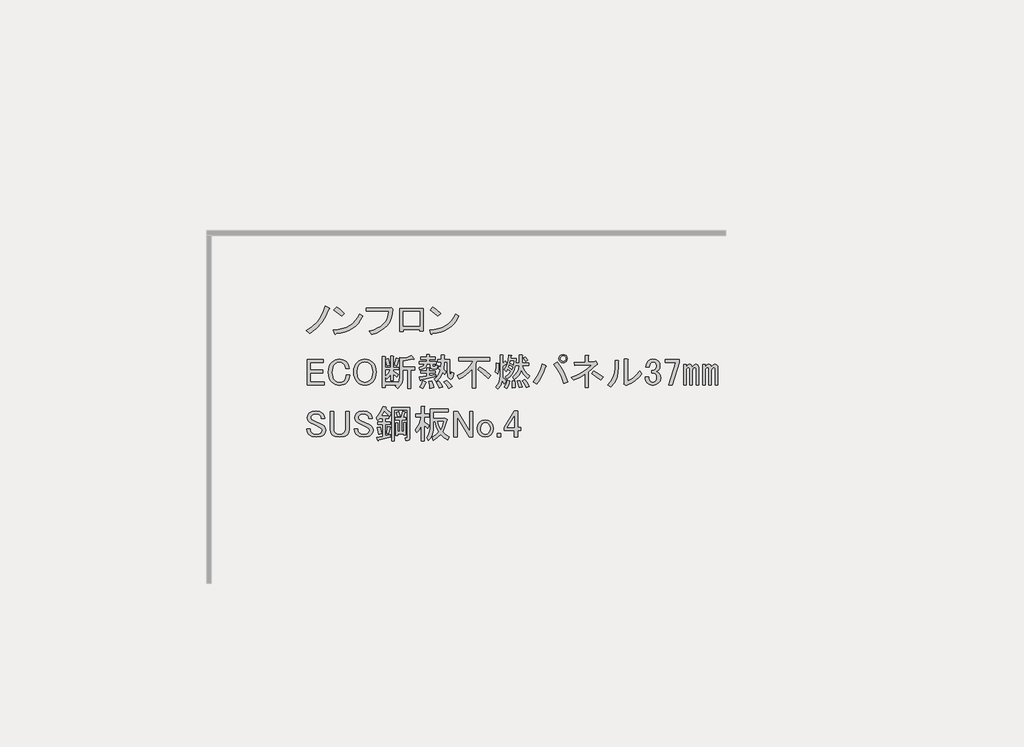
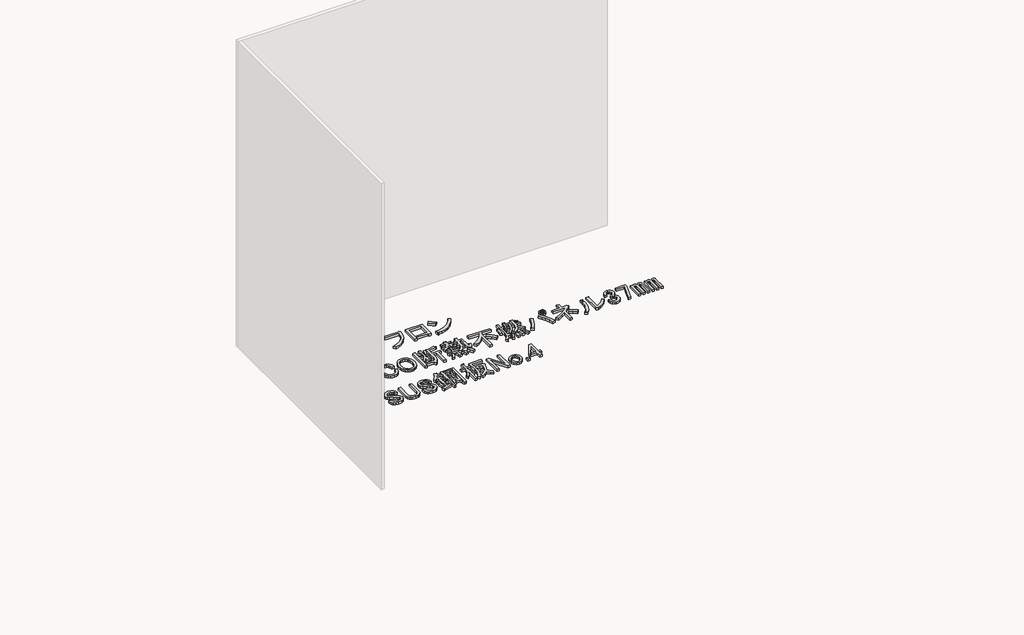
# One storey, part 110 of 117: 1 proxy.
"""IFC4 building model written with IfcOpenShell, lengths in millimetres."""

from ifc_helpers import new_model, si_unit, frame, origin, place, context, project, spatial, polyline, outline, extrude, element, save

model = new_model("IFC4")

# Units and contexts
model_context = context("Model", 3, world=origin())
ifc_project = project(units=[si_unit("LENGTHUNIT", "METRE", prefix="MILLI")], contexts=[model_context])

# Site, building, storey
site = spatial("IfcSite", under=ifc_project)
building = spatial("IfcBuilding", under=site)
storey = spatial("IfcBuildingStorey", under=building, Name="レベル 1", Elevation=500.0)

# Proxy
placement = place(None, origin())
element("IfcBuildingElementProxy", 1, Name="200㎜\u3000MS Pゴシック", ObjectType="200㎜\u3000MS Pゴシック", at=placement, inside=storey, context=model_context, shape_type="SweptSolid", body=[
    extrude(outline(polyline([(48940.1706985, 11396.4503118), (48914.5952502, 11336.6784775), (48886.146156, 11290.7001434), (48844.4782907, 11245.2965385), (48795.3389462, 11207.939142), (48767.7519457, 11229.7788507), (48815.4544673, 11260.2394971), (48855.1107805, 11298.7463519), (48872.4963381, 11322.6694538), (48887.8703435, 11350.7593423), (48901.2327969, 11383.0160173), (48912.5836981, 11419.4394788), (48943.6190736, 11405.6459786), (48946.7800841, 11401.0481452), (48940.1706985, 11396.4503118)])), frame((0.0, 0.0, 500.0), z_axis=(0.0, 0.0, 1.0), x_axis=(1.0, 0.0, 0.0)), (0.0, 0.0, 1.0), 25.0),
    extrude(outline(polyline([(49039.8977052, 11341.2763109), (48981.2753292, 11388.4041033), (49000.8161212, 11412.5427287), (49028.1157571, 11392.7145721), (49061.7374138, 11363.1160196), (49039.8977052, 11341.2763109)])), frame((0.0, 0.0, 500.0), z_axis=(0.0, 0.0, 1.0), x_axis=(1.0, 0.0, 0.0)), (0.0, 0.0, 1.0), 25.0),
    extrude(outline(polyline([(49201.9713328, 11341.2763109), (49185.447869, 11311.534076), (49166.3381239, 11285.5275808), (49144.6420975, 11263.2568252), (49120.3597898, 11244.7218093), (49093.4912008, 11229.922533), (49064.0363306, 11218.8589964), (49031.995179, 11211.5311994), (48997.3677461, 11207.939142), (48991.6204544, 11199.8929336), (48985.8731626, 11205.6402253), (48976.6774958, 11235.5261425), (49012.5082679, 11238.2022252), (49045.2857912, 11244.5062859), (49075.0100658, 11254.4383244), (49101.6810916, 11267.9983409), (49125.2988687, 11285.1863354), (49145.863397, 11306.0023077), (49163.3746766, 11330.446258), (49177.8327074, 11358.5181862), (49201.9713328, 11341.2763109)])), frame((0.0, 0.0, 500.0), z_axis=(0.0, 0.0, 1.0), x_axis=(1.0, 0.0, 0.0)), (0.0, 0.0, 1.0), 25.0),
    extrude(outline(polyline([(49252.7314136, 11226.3304757), (49286.514713, 11236.0110702), (49316.0234641, 11248.3857078), (49341.257667, 11263.4543884), (49362.2173217, 11281.217112), (49378.902428, 11301.6738786), (49391.3129862, 11324.8246882), (49399.4489961, 11350.6695409), (49403.3104577, 11379.2084365), (49230.8917049, 11379.2084365), (49230.8917049, 11404.4965202), (49405.6093744, 11404.4965202), (49421.7017914, 11407.9448953), (49434.3458332, 11396.4503118), (49430.825617, 11359.9550091), (49422.5638851, 11326.9080815), (49409.5606375, 11297.3095289), (49391.8158742, 11271.1593514), (49369.3295952, 11248.457549), (49342.1018005, 11229.2041216), (49310.1324901, 11213.3990692), (49273.421664, 11201.0423919), (49252.7314136, 11226.3304757)])), frame((0.0, 0.0, 500.0), z_axis=(0.0, 0.0, 1.0), x_axis=(1.0, 0.0, 0.0)), (0.0, 0.0, 1.0), 25.0),
    extrude(outline(polyline([(49667.455987, 11227.479934), (49641.0184449, 11227.479934), (49641.0184449, 11240.1239759), (49513.4285679, 11240.1239759), (49513.4285679, 11221.7326423), (49486.9910258, 11221.7326423), (49486.9910258, 11401.0481452), (49667.455987, 11401.0481452), (49667.455987, 11227.479934)]), holes=[polyline([(49513.4285679, 11375.7600614), (49513.4285679, 11265.4120596), (49641.0184449, 11265.4120596), (49641.0184449, 11375.7600614), (49513.4285679, 11375.7600614)])]), frame((0.0, 0.0, 500.0), z_axis=(0.0, 0.0, 1.0), x_axis=(1.0, 0.0, 0.0)), (0.0, 0.0, 1.0), 25.0),
    extrude(outline(polyline([(49943.5099049, 11341.2763109), (49926.9864411, 11311.534076), (49907.876696, 11285.5275808), (49886.1806696, 11263.2568252), (49861.8983619, 11244.7218093), (49835.0297729, 11229.922533), (49805.5749026, 11218.8589964), (49773.5337511, 11211.5311994), (49738.9063182, 11207.939142), (49733.1590264, 11199.8929336), (49727.4117347, 11205.6402253), (49718.2160679, 11235.5261425), (49754.0468399, 11238.2022252), (49786.8243633, 11244.5062859), (49816.5486378, 11254.4383244), (49843.2196637, 11267.9983409), (49866.8374407, 11285.1863354), (49887.4019691, 11306.0023077), (49904.9132486, 11330.446258), (49919.3712795, 11358.5181862), (49943.5099049, 11341.2763109)])), frame((0.0, 0.0, 500.0), z_axis=(0.0, 0.0, 1.0), x_axis=(1.0, 0.0, 0.0)), (0.0, 0.0, 1.0), 25.0),
    extrude(outline(polyline([(49781.4362772, 11341.2763109), (49722.8139013, 11388.4041033), (49742.3546933, 11412.5427287), (49769.6543291, 11392.7145721), (49803.2759859, 11363.1160196), (49781.4362772, 11341.2763109)])), frame((0.0, 0.0, 500.0), z_axis=(0.0, 0.0, 1.0), x_axis=(1.0, 0.0, 0.0)), (0.0, 0.0, 1.0), 25.0),
    extrude(outline(polyline([(48773.4992375, 11007.9448953), (48899.9396562, 11007.9448953), (48899.9396562, 10986.1051866), (48799.9367796, 10986.1051866), (48799.9367796, 10925.183894), (48893.0429061, 10925.183894), (48893.0429061, 10903.3441853), (48799.9367796, 10903.3441853), (48799.9367796, 10833.2272258), (48905.686948, 10833.2272258), (48905.686948, 10811.3875171), (48773.4992375, 10811.3875171), (48773.4992375, 11007.9448953)])), frame((0.0, 0.0, 500.0), z_axis=(0.0, 0.0, 1.0), x_axis=(1.0, 0.0, 0.0)), (0.0, 0.0, 1.0), 25.0),
    extrude(outline(polyline([(48937.7798252, 10909.091477), (48939.5758538, 10933.014579), (48944.9639399, 10954.2077173), (48953.9440832, 10972.6708921), (48966.516284, 10988.4041033), (48991.5170031, 11004.7838848), (49022.8397432, 11010.243812), (49053.5877541, 11005.358614), (49076.8642858, 10990.70302), (49092.6693381, 10967.1391238), (49098.7039944, 10937.8279358), (49071.116994, 10937.8279358), (49066.231796, 10959.0929153), (49056.1740354, 10974.6106031), (49040.9437123, 10984.9557283), (49022.8397432, 10988.4041033), (49003.2989512, 10984.3809991), (48986.0570759, 10972.3116864), (48977.0050914, 10960.6015794), (48970.5393882, 10946.1615089), (48965.3668256, 10909.091477), (48970.5393882, 10872.0214452), (48977.0050914, 10857.5813746), (48986.0570759, 10845.8712677), (49002.7242221, 10834.6640487), (49022.8397432, 10830.9283091), (49043.242629, 10834.0893196), (49058.4729521, 10843.572351), (49070.5422648, 10863.1131429), (49074.5653691, 10889.550685), (49102.1523695, 10889.550685), (49095.8303486, 10854.7795699), (49088.7899162, 10840.6268639), (49079.1632025, 10828.6293924), (49068.3151893, 10820.0802959), (49055.3119417, 10813.9737984), (49022.8397432, 10809.0886004), (48991.5170031, 10814.5485276), (48966.516284, 10830.9283091), (48953.9440832, 10846.5896791), (48944.9639399, 10864.8373305), (48939.5758538, 10885.6712631), (48937.7798252, 10909.091477)])), frame((0.0, 0.0, 500.0), z_axis=(0.0, 0.0, 1.0), x_axis=(1.0, 0.0, 0.0)), (0.0, 0.0, 1.0), 25.0),
    extrude(outline(polyline([(49133.1417667, 10910.2409354), (49134.8659542, 10933.0864201), (49140.0385168, 10953.3456236), (49148.6594544, 10971.0185457), (49160.7287671, 10986.1051866), (49173.4446501, 10996.6658352), (49187.4536738, 11004.2091557), (49202.7558381, 11008.7351479), (49219.3511431, 11010.243812), (49235.946448, 11008.7351479), (49251.2486123, 11004.2091557), (49265.257636, 10996.6658352), (49277.973519, 10986.1051866), (49290.0428317, 10971.0185457), (49298.6637694, 10953.3456236), (49303.836332, 10933.0864201), (49305.5605195, 10910.2409354), (49303.836332, 10887.3954506), (49298.6637694, 10867.1362472), (49290.0428317, 10849.463325), (49277.973519, 10834.3766841), (49265.257636, 10823.8160355), (49251.2486123, 10816.2727151), (49235.946448, 10811.7467228), (49219.3511431, 10810.2380587), (49202.7558381, 10811.7467228), (49187.4536738, 10816.2727151), (49173.4446501, 10823.8160355), (49160.7287671, 10834.3766841), (49148.6594544, 10849.463325), (49140.0385168, 10867.1362472), (49134.8659542, 10887.3954506), (49133.1417667, 10910.2409354)]), holes=[polyline([(49219.3511431, 10988.4041033), (49198.6608927, 10984.0936345), (49180.2695591, 10971.162228), (49171.7204626, 10960.0268502), (49165.6139651, 10946.1615089), (49160.7287671, 10910.2409354), (49165.6139651, 10874.3203619), (49171.7204626, 10860.4550205), (49180.2695591, 10849.3196427), (49198.6608927, 10836.3882363), (49219.3511431, 10832.0777674), (49240.0413934, 10836.3882363), (49258.432727, 10849.3196427), (49266.9818235, 10860.4550205), (49273.088321, 10874.3203619), (49277.973519, 10910.2409354), (49273.088321, 10946.1615089), (49266.9818235, 10960.0268502), (49258.432727, 10971.162228), (49240.0413934, 10984.0936345), (49219.3511431, 10988.4041033)])]), frame((0.0, 0.0, 500.0), z_axis=(0.0, 0.0, 1.0), x_axis=(1.0, 0.0, 0.0)), (0.0, 0.0, 1.0), 25.0),
    extrude(outline(polyline([(49444.3691101, 10964.2654779), (49461.6109854, 11017.1405621), (49482.3012357, 11011.3932704), (49484.0254232, 11008.2322599), (49480.002319, 11005.6459786), (49462.7604437, 10957.3687278), (49444.3691101, 10964.2654779)])), frame((0.0, 0.0, 500.0), z_axis=(0.0, 0.0, 1.0), x_axis=(1.0, 0.0, 0.0)), (0.0, 0.0, 1.0), 25.0),
    extrude(outline(polyline([(49598.3965292, 11012.5427287), (49596.6723417, 11007.9448953), (49589.2008624, 11010.243812), (49512.1871528, 10997.5997701), (49512.1871528, 10948.173061), (49604.143821, 10948.173061), (49604.143821, 10926.3333523), (49573.1084455, 10926.3333523), (49573.1084455, 10786.0994334), (49550.1192785, 10786.0994334), (49550.1192785, 10926.3333523), (49512.1871528, 10926.3333523), (49512.1871528, 10876.9066432), (49509.6008716, 10849.1041193), (49501.8420277, 10824.3189236), (49488.9106212, 10802.551056), (49470.8066522, 10783.8005167), (49453.5647769, 10803.3413086), (49463.9099021, 10812.5369755), (49374.2521506, 10812.5369755), (49374.2521506, 10790.6972668), (49351.2629836, 10790.6972668), (49351.2629836, 11029.784604), (49373.1026922, 11029.784604), (49377.9878902, 11027.4856873), (49374.2521506, 11022.8878539), (49374.2521506, 10947.0236026), (49416.7821096, 10947.0236026), (49416.7821096, 11034.3824374), (49435.1734433, 11034.3824374), (49440.0586413, 11032.0835207), (49436.3229016, 11027.4856873), (49436.3229016, 10947.0236026), (49480.002319, 10947.0236026), (49480.002319, 10928.632269), (49436.3229016, 10928.632269), (49436.3229016, 10919.4366022), (49476.5539439, 10892.9990601), (49462.7604437, 10871.1593514), (49436.3229016, 10897.5968935), (49436.3229016, 10844.7218093), (49416.7821096, 10844.7218093), (49416.7821096, 10892.9990601), (49403.5633386, 10873.1709035), (49389.1951092, 10857.3658512), (49376.5510673, 10875.7571848), (49398.390776, 10899.8958102), (49415.6326513, 10928.632269), (49374.2521506, 10928.632269), (49374.2521506, 10834.3766841), (49471.9561105, 10834.3766841), (49471.9561105, 10820.5831839), (49484.887517, 10844.7218093), (49489.1979858, 10878.0561015), (49489.1979858, 11022.8878539), (49511.0376945, 11017.1405621), (49547.2456326, 11024.6120414), (49577.7062789, 11037.8308125), (49598.3965292, 11012.5427287)])), frame((0.0, 0.0, 500.0), z_axis=(0.0, 0.0, 1.0), x_axis=(1.0, 0.0, 0.0)), (0.0, 0.0, 1.0), 25.0),
    extrude(outline(polyline([(49390.3445675, 10956.2192695), (49377.7005257, 11006.7954369), (49397.2413176, 11013.6921871), (49405.0001615, 10989.5535617), (49409.8853595, 10963.1160196), (49390.3445675, 10956.2192695)])), frame((0.0, 0.0, 500.0), z_axis=(0.0, 0.0, 1.0), x_axis=(1.0, 0.0, 0.0)), (0.0, 0.0, 1.0), 25.0),
    extrude(outline(polyline([(49734.0326148, 10840.1239759), (49744.0903754, 10812.82434), (49748.9755734, 10790.6972668), (49720.2391146, 10784.949975), (49717.6528333, 10806.5023191), (49709.8939894, 10836.6756008), (49734.0326148, 10840.1239759)])), frame((0.0, 0.0, 500.0), z_axis=(0.0, 0.0, 1.0), x_axis=(1.0, 0.0, 0.0)), (0.0, 0.0, 1.0), 25.0),
    extrude(outline(polyline([(49790.356074, 10787.2488917), (49782.022501, 10811.9622463), (49768.5163654, 10833.2272258), (49789.2066157, 10841.2734343), (49806.1611264, 10819.7210902), (49817.9430745, 10796.4445585), (49790.356074, 10787.2488917)])), frame((0.0, 0.0, 500.0), z_axis=(0.0, 0.0, 1.0), x_axis=(1.0, 0.0, 0.0)), (0.0, 0.0, 1.0), 25.0),
    extrude(outline(polyline([(49689.2037391, 10835.5261425), (49692.6521141, 10830.6409445), (49686.9048224, 10827.479934), (49677.1344264, 10801.9044857), (49666.214572, 10782.6510583), (49643.225405, 10794.1456418), (49655.8694469, 10817.709538), (49666.214572, 10844.7218093), (49689.2037391, 10835.5261425)])), frame((0.0, 0.0, 500.0), z_axis=(0.0, 0.0, 1.0), x_axis=(1.0, 0.0, 0.0)), (0.0, 0.0, 1.0), 25.0),
    extrude(outline(polyline([(49721.3885729, 10972.3116864), (49696.1004892, 10972.3116864), (49691.5026558, 10954.8542877), (49681.1575306, 10941.5636755), (49665.0651137, 10932.4398498), (49643.225405, 10927.4828107), (49638.6275716, 10947.0236026), (49663.9156553, 10955.6445403), (49671.3871346, 10962.9723373), (49675.4102388, 10972.3116864), (49639.7770299, 10972.3116864), (49639.7770299, 10990.70302), (49693.8015725, 10990.70302), (49693.8015725, 11007.9448953), (49650.1221551, 11007.9448953), (49650.1221551, 11026.3362289), (49693.8015725, 11026.3362289), (49693.8015725, 11044.7275626), (49715.6412812, 11044.7275626), (49720.5264792, 11042.4286459), (49716.7907395, 11037.8308125), (49716.7907395, 11026.3362289), (49759.3206985, 11026.3362289), (49759.3206985, 11007.9448953), (49716.7907395, 11007.9448953), (49716.7907395, 10990.70302), (49769.6658237, 10990.70302), (49769.6658237, 10972.3116864), (49740.9293649, 10972.3116864), (49740.9293649, 10959.6676445), (49742.3661878, 10954.4950819), (49746.6766567, 10952.7708944), (49757.0217818, 10952.7708944), (49760.7575215, 10955.9319049), (49760.4701569, 10965.4149363), (49780.0109489, 10963.1160196), (49777.137303, 10941.5636755), (49771.8210581, 10936.1755894), (49763.9185319, 10934.3795608), (49739.7799066, 10934.3795608), (49725.9864063, 10939.2647588), (49721.3885729, 10953.9203528), (49721.3885729, 10972.3116864)])), frame((0.0, 0.0, 500.0), z_axis=(0.0, 0.0, 1.0), x_axis=(1.0, 0.0, 0.0)), (0.0, 0.0, 1.0), 25.0),
    extrude(outline(polyline([(49852.4268251, 10989.5535617), (49830.5871164, 10989.5535617), (49825.989283, 10932.0806441), (49845.5300749, 10913.6893104), (49835.1849498, 10891.8496017), (49819.0925328, 10907.9420187), (49799.8391054, 10870.2972576), (49769.6658237, 10837.8250592), (49752.4239484, 10858.5153095), (49767.5105893, 10870.4409399), (49780.585678, 10885.5275808), (49791.6492147, 10903.7752321), (49800.7011992, 10925.183894), (49783.4593239, 10940.1268525), (49791.5055324, 10957.3687278), (49805.2990326, 10947.0236026), (49807.5979493, 10989.5535617), (49780.0109489, 10989.5535617), (49780.0109489, 11007.9448953), (49807.5979493, 11007.9448953), (49807.5979493, 11042.4286459), (49829.437658, 11042.4286459), (49834.322856, 11040.1297292), (49830.5871164, 11035.5318957), (49830.5871164, 11007.9448953), (49871.967617, 11007.9448953), (49871.967617, 10911.3903937), (49875.4159921, 10887.2517683), (49878.6488437, 10885.2402162), (49881.4506484, 10888.4012267), (49885.7611173, 10910.2409354), (49905.3019092, 10903.3441853), (49900.775917, 10876.5474374), (49892.945232, 10860.5268616), (49881.8098542, 10855.2824579), (49867.3697836, 10860.8142262), (49860.8322393, 10868.1420232), (49856.1625647, 10879.780289), (49852.4268251, 10915.9882271), (49852.4268251, 10989.5535617)])), frame((0.0, 0.0, 500.0), z_axis=(0.0, 0.0, 1.0), x_axis=(1.0, 0.0, 0.0)), (0.0, 0.0, 1.0), 25.0),
    extrude(outline(polyline([(49651.2716134, 10850.4691011), (49649.2600613, 10845.5839031), (49645.5243217, 10847.020726), (49639.7770299, 10871.1593514), (49694.9510308, 10879.2055599), (49694.9510308, 10902.1947269), (49651.2716134, 10902.1947269), (49651.2716134, 10920.5860605), (49694.9510308, 10920.5860605), (49694.9510308, 10943.5752276), (49713.3423645, 10943.5752276), (49718.2275625, 10941.2763109), (49714.4918228, 10936.6784775), (49714.4918228, 10920.5860605), (49759.3206985, 10920.5860605), (49759.3206985, 10902.1947269), (49714.4918228, 10902.1947269), (49714.4918228, 10882.6539349), (49765.0679903, 10891.8496017), (49765.0679903, 10875.7571848), (49651.2716134, 10850.4691011)])), frame((0.0, 0.0, 500.0), z_axis=(0.0, 0.0, 1.0), x_axis=(1.0, 0.0, 0.0)), (0.0, 0.0, 1.0), 25.0),
    extrude(outline(polyline([(49848.97845, 10845.8712677), (49873.6918046, 10824.6062881), (49892.6578674, 10799.8929336), (49866.2203253, 10784.949975), (49846.9668979, 10814.5485276), (49828.2881997, 10834.3766841), (49848.97845, 10845.8712677)])), frame((0.0, 0.0, 500.0), z_axis=(0.0, 0.0, 1.0), x_axis=(1.0, 0.0, 0.0)), (0.0, 0.0, 1.0), 25.0),
    extrude(outline(polyline([(50167.3784135, 10861.9636846), (50128.2968295, 10900.1831748), (50086.9163289, 10929.7817274), (50103.0087458, 10950.4719777), (50146.6881632, 10922.3102481), (50188.0686638, 10883.8033933), (50167.3784135, 10861.9636846)])), frame((0.0, 0.0, 500.0), z_axis=(0.0, 0.0, 1.0), x_axis=(1.0, 0.0, 0.0)), (0.0, 0.0, 1.0), 25.0),
    extrude(outline(polyline([(49940.9351182, 11022.8878539), (50182.3213721, 11022.8878539), (50182.3213721, 10997.5997701), (50082.3184955, 10997.5997701), (50071.9733703, 10973.4611447), (50071.9733703, 10787.2488917), (50045.5358282, 10787.2488917), (50045.5358282, 10934.3795608), (50024.7018956, 10911.1030291), (50001.2816816, 10890.7001434), (49975.2751864, 10873.1709035), (49946.6824099, 10858.5153095), (49930.589993, 10884.9528516), (49970.174465, 10905.3557374), (50003.8679629, 10930.9311857), (50031.6704868, 10961.6791966), (50053.5820367, 10997.5997701), (49940.9351182, 10997.5997701), (49940.9351182, 11022.8878539)])), frame((0.0, 0.0, 500.0), z_axis=(0.0, 0.0, 1.0), x_axis=(1.0, 0.0, 0.0)), (0.0, 0.0, 1.0), 25.0),
    extrude(outline(polyline([(50354.7401249, 10788.3983501), (50355.3148541, 10815.4106213), (50352.4412082, 10843.572351), (50371.9820002, 10844.7218093), (50378.3040211, 10818.5716318), (50378.8787503, 10790.6972668), (50354.7401249, 10788.3983501)])), frame((0.0, 0.0, 500.0), z_axis=(0.0, 0.0, 1.0), x_axis=(1.0, 0.0, 0.0)), (0.0, 0.0, 1.0), 25.0),
    extrude(outline(polyline([(50335.1993329, 10840.1239759), (50326.5783953, 10809.6633296), (50312.2101659, 10782.6510583), (50292.6693739, 10795.2951002), (50306.7502387, 10820.0084547), (50316.8079993, 10848.1701844), (50335.1993329, 10840.1239759)])), frame((0.0, 0.0, 500.0), z_axis=(0.0, 0.0, 1.0), x_axis=(1.0, 0.0, 0.0)), (0.0, 0.0, 1.0), 25.0),
    extrude(outline(polyline([(50250.1394149, 10978.0589781), (50254.7372483, 10975.7600614), (50250.1394149, 10971.162228), (50248.9899565, 10931.5059149), (50243.2426647, 10897.5968935), (50224.8513311, 10910.2409354), (50230.5986229, 10944.7246859), (50231.7480812, 10981.5073532), (50250.1394149, 10978.0589781)])), frame((0.0, 0.0, 500.0), z_axis=(0.0, 0.0, 1.0), x_axis=(1.0, 0.0, 0.0)), (0.0, 0.0, 1.0), 25.0),
    extrude(outline(polyline([(50301.8650407, 10996.4503118), (50311.0607075, 10979.2084365), (50312.4975305, 10973.1737801), (50307.6123325, 10973.4611447), (50281.1747904, 10952.7708944), (50281.1747904, 10868.8604347), (50294.9682906, 10856.5037574), (50306.4628741, 10840.1239759), (50293.8188322, 10819.4337256), (50275.4274986, 10844.7218093), (50263.6455505, 10808.8012358), (50242.0932064, 10779.2026832), (50227.1502478, 10797.5940169), (50242.2368887, 10816.3445562), (50253.0130607, 10836.9629654), (50259.478764, 10859.4492444), (50261.6339984, 10883.8033933), (50261.6339984, 11041.2791875), (50280.025332, 11041.2791875), (50284.91053, 11038.9802708), (50281.1747904, 11034.3824374), (50281.1747904, 10975.7600614), (50301.8650407, 10996.4503118)])), frame((0.0, 0.0, 500.0), z_axis=(0.0, 0.0, 1.0), x_axis=(1.0, 0.0, 0.0)), (0.0, 0.0, 1.0), 25.0),
    extrude(outline(polyline([(50452.4440848, 11027.4856873), (50474.2837935, 11003.3470619), (50457.0419182, 10991.8524784), (50450.4325327, 11003.3470619), (50437.5011262, 11017.1405621), (50452.4440848, 11027.4856873)])), frame((0.0, 0.0, 500.0), z_axis=(0.0, 0.0, 1.0), x_axis=(1.0, 0.0, 0.0)), (0.0, 0.0, 1.0), 25.0),
    extrude(outline(polyline([(50462.78921, 10790.6972668), (50449.5704389, 10818.8589964), (50432.9032928, 10843.572351), (50451.2946265, 10851.6185594), (50470.2606893, 10828.6293924), (50485.778377, 10801.0423919), (50462.78921, 10790.6972668)])), frame((0.0, 0.0, 500.0), z_axis=(0.0, 0.0, 1.0), x_axis=(1.0, 0.0, 0.0)), (0.0, 0.0, 1.0), 25.0),
    extrude(outline(polyline([(50413.3625008, 10845.8712677), (50431.7538345, 10796.4445585), (50407.6152091, 10791.8467251), (50393.8217089, 10842.4228926), (50413.3625008, 10845.8712677)])), frame((0.0, 0.0, 500.0), z_axis=(0.0, 0.0, 1.0), x_axis=(1.0, 0.0, 0.0)), (0.0, 0.0, 1.0), 25.0),
    extrude(outline(polyline([(50474.2837935, 10860.8142262), (50443.5357826, 10891.2748726), (50422.5581677, 10925.183894), (50414.1527535, 10903.0568207), (50402.7300111, 10883.8033933), (50388.2899405, 10867.4236118), (50370.8325418, 10853.9174761), (50357.0390416, 10872.3088098), (50377.8729742, 10891.2030314), (50393.2469797, 10912.2524875), (50403.161058, 10935.457178), (50407.6152091, 10960.8171029), (50378.8787503, 10960.8171029), (50370.904383, 10930.2127742), (50357.3264062, 10902.7694561), (50338.1448199, 10878.4871484), (50313.3596242, 10857.3658512), (50300.7155823, 10873.4582681), (50326.5783953, 10895.0106122), (50342.096083, 10915.9882271), (50320.2563743, 10935.5290191), (50306.4628741, 10914.8387688), (50292.6693739, 10929.7817274), (50305.0978923, 10948.8196313), (50314.7964472, 10973.7485093), (50321.7650384, 11004.5683614), (50326.0036661, 11041.2791875), (50346.6939164, 11038.9802708), (50350.1422915, 11036.3939895), (50344.3949997, 11033.232979), (50342.096083, 11014.8416454), (50385.7755004, 11014.8416454), (50382.3271253, 10979.2084365), (50407.6152091, 10979.2084365), (50407.6152091, 11041.2791875), (50429.4549178, 11041.2791875), (50434.3401158, 11038.9802708), (50430.6043761, 11034.3824374), (50430.6043761, 10979.2084365), (50480.0310853, 10979.2084365), (50480.0310853, 10960.8171029), (50430.6043761, 10960.8171029), (50437.1419205, 10939.0492353), (50448.7083452, 10918.5745084), (50465.3036501, 10899.3929222), (50486.9278354, 10881.5044766), (50474.2837935, 10860.8142262)]), holes=[polyline([(50350.1422915, 10930.9311857), (50357.0390416, 10950.4719777), (50331.7509579, 10966.5643946), (50326.0036661, 10949.3225193), (50350.1422915, 10930.9311857)]), polyline([(50339.7971663, 10996.4503118), (50336.3487913, 10980.3578948), (50361.636875, 10966.5643946), (50366.2347084, 10996.4503118), (50339.7971663, 10996.4503118)])]), frame((0.0, 0.0, 500.0), z_axis=(0.0, 0.0, 1.0), x_axis=(1.0, 0.0, 0.0)), (0.0, 0.0, 1.0), 25.0),
    extrude(outline(polyline([(50699.5776305, 10987.254645), (50726.230696, 10950.5438188), (50748.7169751, 10912.8272167), (50767.0364675, 10874.1048384), (50781.1891735, 10834.3766841), (50750.153798, 10824.031559), (50734.7079514, 10867.1362472), (50717.1068704, 10905.643102), (50697.350555, 10939.5521234), (50675.4390051, 10968.8633113), (50699.5776305, 10987.254645)])), frame((0.0, 0.0, 500.0), z_axis=(0.0, 0.0, 1.0), x_axis=(1.0, 0.0, 0.0)), (0.0, 0.0, 1.0), 25.0),
    extrude(outline(polyline([(50612.2187958, 10960.8171029), (50616.2419, 10955.3571757), (50609.919879, 10950.4719777), (50597.9942486, 10915.0542922), (50582.9076078, 10881.217112), (50564.6599564, 10848.960437), (50543.2512946, 10818.2842672), (50516.8137525, 10835.5261425), (50540.018443, 10866.9925649), (50559.056347, 10900.4705394), (50573.9274644, 10935.960066), (50584.6317953, 10973.4611447), (50612.2187958, 10960.8171029)])), frame((0.0, 0.0, 500.0), z_axis=(0.0, 0.0, 1.0), x_axis=(1.0, 0.0, 0.0)), (0.0, 0.0, 1.0), 25.0),
    extrude(outline(polyline([(50745.5559646, 10981.5073532), (50732.9119227, 10983.8062699), (50722.5667975, 10990.70302), (50715.6700474, 11001.0481452), (50713.3711307, 11013.6921871), (50715.6700474, 11026.3362289), (50722.5667975, 11036.6813541), (50732.9119227, 11043.5781042), (50745.5559646, 11045.8770209), (50758.2000065, 11043.5781042), (50768.5451316, 11036.6813541), (50775.4418817, 11026.3362289), (50777.7407984, 11013.6921871), (50775.4418817, 11001.0481452), (50768.5451316, 10990.70302), (50758.2000065, 10983.8062699), (50745.5559646, 10981.5073532)]), holes=[polyline([(50745.5559646, 10993.0019367), (50753.8895376, 10994.4387597), (50760.4989232, 10998.7492285), (50764.809392, 11005.358614), (50766.2462149, 11013.6921871), (50764.809392, 11022.0257601), (50760.4989232, 11028.6351456), (50753.8895376, 11032.9456145), (50745.5559646, 11034.3824374), (50737.2223915, 11032.9456145), (50730.613006, 11028.6351456), (50726.3025372, 11022.0257601), (50724.8657143, 11013.6921871), (50726.3025372, 11005.358614), (50730.613006, 10998.7492285), (50737.2223915, 10994.4387597), (50745.5559646, 10993.0019367)])]), frame((0.0, 0.0, 500.0), z_axis=(0.0, 0.0, 1.0), x_axis=(1.0, 0.0, 0.0)), (0.0, 0.0, 1.0), 25.0),
    extrude(outline(polyline([(50989.2411352, 10991.8524784), (50996.1378853, 10994.1513951), (51008.7819272, 10976.9095198), (51009.9313856, 10970.8748634), (51004.1840938, 10968.8633113), (50940.9638844, 10912.5398521), (50940.9638844, 10791.8467251), (50914.5263423, 10791.8467251), (50914.5263423, 10894.1485184), (50874.2953, 10870.0098931), (50829.4664243, 10848.1701844), (50809.9256323, 10868.8604347), (50855.4729195, 10888.3293855), (50896.7097379, 10911.1030291), (50933.6360874, 10937.1813655), (50966.2519682, 10966.5643946), (50836.3631744, 10960.8171029), (50832.9147993, 10986.1051866), (50914.5263423, 10988.4041033), (50914.5263423, 11040.1297292), (50937.5155094, 11040.1297292), (50943.5501657, 11036.6813541), (50940.9638844, 11030.9340623), (50940.9638844, 10989.5535617), (50989.2411352, 10991.8524784)])), frame((0.0, 0.0, 500.0), z_axis=(0.0, 0.0, 1.0), x_axis=(1.0, 0.0, 0.0)), (0.0, 0.0, 1.0), 25.0),
    extrude(outline(polyline([(51035.2194693, 10848.1701844), (50998.1494375, 10877.4813723), (50965.1025098, 10898.7463519), (50982.3443851, 10920.5860605), (51021.1386045, 10897.3095289), (51054.7602613, 10871.1593514), (51035.2194693, 10848.1701844)])), frame((0.0, 0.0, 500.0), z_axis=(0.0, 0.0, 1.0), x_axis=(1.0, 0.0, 0.0)), (0.0, 0.0, 1.0), 25.0),
    extrude(outline(polyline([(51242.2139293, 10841.2734343), (51266.9991251, 10853.4864292), (51290.7785447, 10870.5846222), (51313.5521883, 10892.5680132), (51335.3200559, 10919.4366022), (51351.4124728, 10897.5968935), (51328.1359412, 10869.7943696), (51301.9857636, 10846.1586322), (51272.9619403, 10826.6896814), (51241.064471, 10811.3875171), (51231.8688042, 10806.7896837), (51213.4774705, 10820.5831839), (51215.7763872, 10826.3304757), (51215.7763872, 11011.3932704), (51239.9150126, 11011.3932704), (51245.6623044, 11007.9448953), (51242.2139293, 11002.1976035), (51242.2139293, 10841.2734343)])), frame((0.0, 0.0, 500.0), z_axis=(0.0, 0.0, 1.0), x_axis=(1.0, 0.0, 0.0)), (0.0, 0.0, 1.0), 25.0),
    extrude(outline(polyline([(51088.1865102, 10810.2380587), (51113.3309116, 10839.4774056), (51131.2911984, 10872.0214452), (51142.0673704, 10907.8701775), (51145.6594278, 10947.0236026), (51145.6594278, 10998.7492285), (51169.7980532, 10998.7492285), (51175.5453449, 10995.3008534), (51172.0969699, 10989.5535617), (51172.0969699, 10948.173061), (51168.2893891, 10902.4102504), (51156.8666467, 10861.67632), (51137.8287427, 10825.9712699), (51111.1756772, 10795.2951002), (51088.1865102, 10810.2380587)])), frame((0.0, 0.0, 500.0), z_axis=(0.0, 0.0, 1.0), x_axis=(1.0, 0.0, 0.0)), (0.0, 0.0, 1.0), 25.0),
    extrude(outline(polyline([(51383.5973066, 10951.621436), (51387.9077755, 10975.7600614), (51400.8391819, 10995.3008534), (51417.506328, 11006.5080724), (51437.6218492, 11010.243812), (51460.3236516, 11006.5080724), (51477.8528915, 10995.3008534), (51488.1980167, 10979.2084365), (51491.6463917, 10958.5181862), (51488.7727459, 10938.402665), (51480.1518082, 10924.0344356), (51471.8182352, 10917.7124147), (51462.9099329, 10914.8387688), (51482.4507249, 10903.3441853), (51492.7958501, 10887.2517683), (51496.2442251, 10866.561518), (51492.2211209, 10843.572351), (51480.1518082, 10825.1810173), (51460.8983808, 10813.1117046), (51435.3229325, 10809.0886004), (51413.1958592, 10813.1117046), (51395.0918902, 10825.1810173), (51383.0225775, 10842.7102572), (51378.9994732, 10863.1131429), (51378.9994732, 10872.3088098), (51405.4370153, 10872.3088098), (51405.4370153, 10864.2626013), (51408.0232966, 10850.4691011), (51415.7821405, 10838.9745175), (51424.6904427, 10832.9398612), (51435.3229325, 10830.9283091), (51448.8290681, 10833.2272258), (51459.4615579, 10840.1239759), (51466.358308, 10851.905924), (51468.6572247, 10868.8604347), (51466.358308, 10883.2286641), (51459.4615579, 10894.1485184), (51449.6911619, 10901.0452686), (51438.7713075, 10903.3441853), (51429.5756407, 10903.3441853), (51429.5756407, 10922.8849772), (51436.4723908, 10922.8849772), (51446.5301514, 10925.183894), (51456.0131828, 10932.0806441), (51462.9099329, 10943.287863), (51465.2088496, 10958.5181862), (51462.9099329, 10972.0243218), (51456.0131828, 10982.6568116), (51447.9669744, 10987.8293741), (51437.6218492, 10989.5535617), (51427.8514532, 10987.5420095), (51419.2305156, 10981.5073532), (51412.0464009, 10969.4380405), (51408.8853904, 10951.621436), (51383.5973066, 10951.621436)])), frame((0.0, 0.0, 500.0), z_axis=(0.0, 0.0, 1.0), x_axis=(1.0, 0.0, 0.0)), (0.0, 0.0, 1.0), 25.0),
    extrude(outline(polyline([(51530.7279757, 11007.9448953), (51639.9265191, 11007.9448953), (51639.9265191, 10982.6568116), (51584.7525182, 10811.3875171), (51559.4644345, 10811.3875171), (51614.6384354, 10986.1051866), (51530.7279757, 10986.1051866), (51530.7279757, 11007.9448953)])), frame((0.0, 0.0, 500.0), z_axis=(0.0, 0.0, 1.0), x_axis=(1.0, 0.0, 0.0)), (0.0, 0.0, 1.0), 25.0),
    extrude(outline(polyline([(51692.8016033, 10810.2380587), (51673.2608114, 10810.2380587), (51673.2608114, 10967.713853), (51692.8016033, 10967.713853), (51692.8016033, 10950.4719777), (51704.870916, 10965.9896654), (51718.0896871, 10971.162228), (51727.2853539, 10969.7254051), (51734.182104, 10965.4149363), (51741.0788541, 10951.621436), (51754.0102606, 10966.27703), (51767.5163962, 10971.162228), (51775.8499693, 10969.7254051), (51782.4593548, 10965.4149363), (51787.6319174, 10956.7939986), (51789.3561049, 10944.7246859), (51789.3561049, 10810.2380587), (51769.8153129, 10810.2380587), (51769.8153129, 10934.3795608), (51767.2290316, 10943.8625922), (51759.4701878, 10947.0236026), (51749.1250626, 10942.4257692), (51743.0904062, 10933.8048316), (51741.0788541, 10924.0344356), (51741.0788541, 10810.2380587), (51721.5380621, 10810.2380587), (51721.5380621, 10934.3795608), (51718.9517808, 10943.8625922), (51711.192937, 10947.0236026), (51700.8478118, 10942.4257692), (51694.8131555, 10933.8048316), (51692.8016033, 10924.0344356), (51692.8016033, 10810.2380587)])), frame((0.0, 0.0, 500.0), z_axis=(0.0, 0.0, 1.0), x_axis=(1.0, 0.0, 0.0)), (0.0, 0.0, 1.0), 25.0),
    extrude(outline(polyline([(51914.6470653, 10971.162228), (51922.9806383, 10969.7254051), (51929.5900239, 10965.4149363), (51934.7625864, 10956.7939986), (51936.486774, 10944.7246859), (51936.486774, 10810.2380587), (51916.945982, 10810.2380587), (51916.945982, 10934.3795608), (51914.3597007, 10943.8625922), (51906.6008568, 10947.0236026), (51896.2557317, 10942.4257692), (51890.2210753, 10933.8048316), (51888.2095232, 10924.0344356), (51888.2095232, 10810.2380587), (51868.6687312, 10810.2380587), (51868.6687312, 10934.3795608), (51866.0824499, 10943.8625922), (51858.323606, 10947.0236026), (51847.9784809, 10942.4257692), (51841.9438245, 10933.8048316), (51839.9322724, 10924.0344356), (51839.9322724, 10810.2380587), (51820.3914804, 10810.2380587), (51820.3914804, 10967.713853), (51839.9322724, 10967.713853), (51839.9322724, 10950.4719777), (51852.0015851, 10965.9896654), (51865.2203561, 10971.162228), (51874.416023, 10969.7254051), (51881.3127731, 10965.4149363), (51888.2095232, 10951.621436), (51901.1409296, 10966.27703), (51914.6470653, 10971.162228)])), frame((0.0, 0.0, 500.0), z_axis=(0.0, 0.0, 1.0), x_axis=(1.0, 0.0, 0.0)), (0.0, 0.0, 1.0), 25.0),
    extrude(outline(polyline([(48775.7981542, 10556.2192695), (48779.8212584, 10576.6221552), (48791.8905711, 10594.1513951), (48812.2934569, 10606.2207078), (48841.3172803, 10610.243812), (48872.6400204, 10605.6459786), (48895.3418228, 10591.8524784), (48907.4111355, 10574.3232385), (48911.4342397, 10553.9203528), (48884.9966976, 10553.9203528), (48882.6977809, 10566.5643946), (48875.8010308, 10576.9095198), (48862.5822598, 10584.6683637), (48843.616197, 10587.254645), (48823.2133112, 10584.9557283), (48810.2819048, 10578.0589781), (48804.2472484, 10569.4380405), (48802.2356963, 10559.6676445), (48806.8335297, 10544.7246859), (48827.52378, 10533.2301024), (48887.2956143, 10506.7925603), (48904.5374896, 10495.2979768), (48914.020521, 10481.5044766), (48917.1815315, 10465.4120596), (48913.1584273, 10444.1470801), (48901.0891146, 10426.3304757), (48891.1031951, 10418.7871552), (48878.3873121, 10413.3990692), (48844.7656553, 10409.0886004), (48811.1439985, 10414.261163), (48797.5660217, 10420.7268662), (48786.1432794, 10429.7788507), (48774.9360604, 10448.1701844), (48771.2003208, 10473.4582681), (48797.6378629, 10473.4582681), (48799.9367796, 10455.6416637), (48806.8335297, 10443.572351), (48822.9259466, 10434.0893196), (48845.9151137, 10430.9283091), (48866.8927286, 10433.801955), (48881.5483226, 10442.4228926), (48888.4450727, 10451.6185594), (48890.7439894, 10460.8142262), (48889.0198019, 10470.2972576), (48883.8472393, 10478.0561015), (48865.4559057, 10489.550685), (48835.5699885, 10503.3441853), (48802.2356963, 10518.2871438), (48786.1432794, 10528.632269), (48778.3844355, 10540.7015817), (48775.7981542, 10556.2192695)])), frame((0.0, 0.0, 500.0), z_axis=(0.0, 0.0, 1.0), x_axis=(1.0, 0.0, 0.0)), (0.0, 0.0, 1.0), 25.0),
    extrude(outline(polyline([(48951.2054987, 10607.9448953), (48977.6430408, 10607.9448953), (48977.6430408, 10470.0098931), (48980.2293221, 10455.3542991), (48987.988166, 10443.572351), (49003.5058537, 10434.0893196), (49024.7708332, 10430.9283091), (49046.0358128, 10434.0893196), (49061.5535005, 10443.572351), (49069.3123444, 10455.3542991), (49071.8986257, 10470.0098931), (49071.8986257, 10607.9448953), (49098.3361678, 10607.9448953), (49098.3361678, 10468.8604347), (49094.3130635, 10445.8712677), (49082.2437508, 10427.479934), (49071.7549434, 10419.4337256), (49058.6798546, 10413.6864338), (49024.7708332, 10409.0886004), (48990.8618119, 10413.6864338), (48977.7867231, 10419.4337256), (48967.2979156, 10427.479934), (48955.2286029, 10445.8712677), (48951.2054987, 10468.8604347), (48951.2054987, 10607.9448953)])), frame((0.0, 0.0, 500.0), z_axis=(0.0, 0.0, 1.0), x_axis=(1.0, 0.0, 0.0)), (0.0, 0.0, 1.0), 25.0),
    extrude(outline(polyline([(49140.6822135, 10556.2192695), (49144.7053177, 10576.6221552), (49156.7746304, 10594.1513951), (49177.1775161, 10606.2207078), (49206.2013395, 10610.243812), (49237.5240796, 10605.6459786), (49260.2258821, 10591.8524784), (49272.2951948, 10574.3232385), (49276.318299, 10553.9203528), (49249.8807569, 10553.9203528), (49247.5818402, 10566.5643946), (49240.6850901, 10576.9095198), (49227.466319, 10584.6683637), (49208.5002562, 10587.254645), (49188.0973705, 10584.9557283), (49175.165964, 10578.0589781), (49169.1313077, 10569.4380405), (49167.1197556, 10559.6676445), (49171.717589, 10544.7246859), (49192.4078393, 10533.2301024), (49252.1796736, 10506.7925603), (49269.4215489, 10495.2979768), (49278.9045803, 10481.5044766), (49282.0655908, 10465.4120596), (49278.0424865, 10444.1470801), (49265.9731738, 10426.3304757), (49255.9872544, 10418.7871552), (49243.2713714, 10413.3990692), (49209.6497146, 10409.0886004), (49176.0280578, 10414.261163), (49162.450081, 10420.7268662), (49151.0273386, 10429.7788507), (49139.8201197, 10448.1701844), (49136.0843801, 10473.4582681), (49162.5219222, 10473.4582681), (49164.8208389, 10455.6416637), (49171.717589, 10443.572351), (49187.8100059, 10434.0893196), (49210.7991729, 10430.9283091), (49231.7767879, 10433.801955), (49246.4323819, 10442.4228926), (49253.329132, 10451.6185594), (49255.6280487, 10460.8142262), (49253.9038611, 10470.2972576), (49248.7312986, 10478.0561015), (49230.3399649, 10489.550685), (49200.4540478, 10503.3441853), (49167.1197556, 10518.2871438), (49151.0273386, 10528.632269), (49143.2684948, 10540.7015817), (49140.6822135, 10556.2192695)])), frame((0.0, 0.0, 500.0), z_axis=(0.0, 0.0, 1.0), x_axis=(1.0, 0.0, 0.0)), (0.0, 0.0, 1.0), 25.0),
    extrude(outline(polyline([(49410.3451429, 10568.8633113), (49368.9646422, 10612.5427287), (49347.1249335, 10573.4611447), (49402.2989344, 10573.4611447), (49402.2989344, 10555.0698111), (49375.8613923, 10555.0698111), (49375.8613923, 10526.3333523), (49413.7935179, 10526.3333523), (49413.7935179, 10507.9420187), (49375.8613923, 10507.9420187), (49375.8613923, 10420.5831839), (49414.9429763, 10430.9283091), (49417.241893, 10411.3875171), (49325.2852248, 10386.0994334), (49322.9863081, 10380.3521416), (49318.3884747, 10383.8005167), (49311.4917246, 10406.7896837), (49356.3206003, 10415.9853505), (49356.3206003, 10507.9420187), (49318.3884747, 10507.9420187), (49318.3884747, 10526.3333523), (49356.3206003, 10526.3333523), (49356.3206003, 10555.0698111), (49334.4808916, 10555.0698111), (49319.537933, 10536.6784775), (49306.8938912, 10557.3687278), (49335.0556208, 10595.0134888), (49359.7689754, 10645.8770209), (49381.6086841, 10640.1297292), (49385.0570591, 10636.3939895), (49379.3097674, 10634.3824374), (49378.160309, 10630.9340623), (49422.9891847, 10593.0019367), (49410.3451429, 10568.8633113)])), frame((0.0, 0.0, 500.0), z_axis=(0.0, 0.0, 1.0), x_axis=(1.0, 0.0, 0.0)), (0.0, 0.0, 1.0), 25.0),
    extrude(outline(polyline([(49478.1631856, 10605.6459786), (49485.3473003, 10590.4156554), (49490.8072275, 10570.0127697), (49473.5653522, 10564.2654779), (49462.0707687, 10601.0481452), (49478.1631856, 10605.6459786)])), frame((0.0, 0.0, 500.0), z_axis=(0.0, 0.0, 1.0), x_axis=(1.0, 0.0, 0.0)), (0.0, 0.0, 1.0), 25.0),
    extrude(outline(polyline([(49531.0382698, 10604.4965202), (49533.6245511, 10601.0481452), (49527.5898948, 10597.5997701), (49514.9458529, 10559.6676445), (49535.6361032, 10559.6676445), (49535.6361032, 10541.2763109), (49504.6007277, 10541.2763109), (49504.6007277, 10452.7680178), (49519.5436863, 10452.7680178), (49519.5436863, 10520.5860605), (49535.6361032, 10520.5860605), (49535.6361032, 10426.3304757), (49519.5436863, 10426.3304757), (49519.5436863, 10434.3766841), (49473.5653522, 10434.3766841), (49473.5653522, 10421.7326423), (49457.4729353, 10421.7326423), (49457.4729353, 10518.2871438), (49473.5653522, 10518.2871438), (49473.5653522, 10452.7680178), (49488.5083108, 10452.7680178), (49488.5083108, 10541.2763109), (49452.8751019, 10541.2763109), (49452.8751019, 10559.6676445), (49498.853436, 10559.6676445), (49509.1985611, 10609.0943537), (49531.0382698, 10604.4965202)])), frame((0.0, 0.0, 500.0), z_axis=(0.0, 0.0, 1.0), x_axis=(1.0, 0.0, 0.0)), (0.0, 0.0, 1.0), 25.0),
    extrude(outline(polyline([(49425.2881014, 10637.8308125), (49565.5220204, 10637.8308125), (49565.5220204, 10397.5940169), (49561.7862807, 10386.3867979), (49550.5790618, 10382.6510583), (49534.4866449, 10382.6510583), (49529.8888115, 10404.490767), (49541.383395, 10404.490767), (49544.83177, 10405.6402253), (49545.9812284, 10409.0886004), (49545.9812284, 10619.4394788), (49444.8288934, 10619.4394788), (49444.8288934, 10380.3521416), (49425.2881014, 10380.3521416), (49425.2881014, 10637.8308125)])), frame((0.0, 0.0, 500.0), z_axis=(0.0, 0.0, 1.0), x_axis=(1.0, 0.0, 0.0)), (0.0, 0.0, 1.0), 25.0),
    extrude(outline(polyline([(49413.7935179, 10489.550685), (49416.3797992, 10486.3896746), (49412.6440596, 10483.8033933), (49404.5978511, 10436.6756008), (49386.2065175, 10438.9745175), (49391.9538092, 10492.9990601), (49413.7935179, 10489.550685)])), frame((0.0, 0.0, 500.0), z_axis=(0.0, 0.0, 1.0), x_axis=(1.0, 0.0, 0.0)), (0.0, 0.0, 1.0), 25.0),
    extrude(outline(polyline([(49336.7798083, 10488.4012267), (49348.2743918, 10436.6756008), (49327.5841415, 10430.9283091), (49316.089558, 10482.6539349), (49336.7798083, 10488.4012267)])), frame((0.0, 0.0, 500.0), z_axis=(0.0, 0.0, 1.0), x_axis=(1.0, 0.0, 0.0)), (0.0, 0.0, 1.0), 25.0),
    extrude(outline(polyline([(49736.7913148, 10409.0886004), (49765.5277736, 10426.3304757), (49787.3674823, 10448.1701844), (49769.5508779, 10490.1254142), (49759.7804819, 10530.9311857), (49747.13644, 10530.9311857), (49747.13644, 10506.7925603), (49744.693841, 10465.0528539), (49737.366044, 10430.6409445), (49725.153049, 10403.5568321), (49708.054856, 10383.8005167), (49694.2613558, 10406.7896837), (49707.3364446, 10424.1752413), (49716.6757937, 10446.4459968), (49722.2794031, 10473.6019504), (49724.147273, 10505.643102), (49724.147273, 10626.3362289), (49860.9328169, 10626.3362289), (49860.9328169, 10604.4965202), (49747.13644, 10604.4965202), (49747.13644, 10552.7708944), (49826.4490663, 10552.7708944), (49832.1963581, 10558.5181862), (49851.73715, 10544.7246859), (49853.173973, 10540.9889463), (49848.288775, 10536.6784775), (49835.9320977, 10490.1254142), (49817.2533995, 10449.3196427), (49836.2194623, 10430.9283091), (49867.829567, 10412.5369755), (49858.6339002, 10388.3983501), (49830.7595351, 10404.490767), (49802.3104409, 10429.7788507), (49777.8844509, 10405.3528608), (49745.9869817, 10384.949975), (49736.7913148, 10409.0886004)]), holes=[polyline([(49781.6201906, 10530.9311857), (49789.666399, 10497.8842581), (49802.3104409, 10470.0098931), (49814.9544828, 10496.1600706), (49823.0006912, 10530.9311857), (49781.6201906, 10530.9311857)])]), frame((0.0, 0.0, 500.0), z_axis=(0.0, 0.0, 1.0), x_axis=(1.0, 0.0, 0.0)), (0.0, 0.0, 1.0), 25.0),
    extrude(outline(polyline([(49654.0303135, 10380.3521416), (49654.0303135, 10499.8958102), (49636.213709, 10465.6994242), (49617.2476462, 10443.572351), (49605.7530627, 10464.2626013), (49622.994938, 10486.9644037), (49636.7884382, 10511.3903937), (49647.1335634, 10537.5405712), (49654.0303135, 10565.4149363), (49612.6498128, 10565.4149363), (49612.6498128, 10587.254645), (49654.0303135, 10587.254645), (49654.0303135, 10647.0264793), (49675.8700222, 10647.0264793), (49680.7552202, 10644.7275626), (49677.0194805, 10640.1297292), (49677.0194805, 10587.254645), (49714.9516061, 10587.254645), (49714.9516061, 10565.4149363), (49677.0194805, 10565.4149363), (49677.0194805, 10525.183894), (49714.9516061, 10498.7463519), (49704.606481, 10475.7571848), (49677.0194805, 10498.7463519), (49677.0194805, 10380.3521416), (49654.0303135, 10380.3521416)])), frame((0.0, 0.0, 500.0), z_axis=(0.0, 0.0, 1.0), x_axis=(1.0, 0.0, 0.0)), (0.0, 0.0, 1.0), 25.0),
    extrude(outline(polyline([(49904.6122342, 10607.9448953), (49933.348693, 10607.9448953), (50025.3053612, 10452.7680178), (50025.3053612, 10607.9448953), (50051.7429033, 10607.9448953), (50051.7429033, 10411.3875171), (50023.0064445, 10411.3875171), (49931.0497763, 10566.5643946), (49931.0497763, 10411.3875171), (49904.6122342, 10411.3875171), (49904.6122342, 10607.9448953)])), frame((0.0, 0.0, 500.0), z_axis=(0.0, 0.0, 1.0), x_axis=(1.0, 0.0, 0.0)), (0.0, 0.0, 1.0), 25.0),
    extrude(outline(polyline([(50084.8932822, 10475.7571848), (50089.7784802, 10503.0568207), (50104.4340742, 10525.183894), (50123.6875015, 10538.1153004), (50146.9640332, 10542.4257692), (50170.2405648, 10538.1153004), (50189.4939922, 10525.183894), (50204.1495862, 10503.0568207), (50209.0347842, 10475.7571848), (50204.1495862, 10448.457549), (50189.4939922, 10426.3304757), (50170.2405648, 10413.3990692), (50146.9640332, 10409.0886004), (50123.6875015, 10413.3990692), (50104.4340742, 10426.3304757), (50089.7784802, 10448.457549), (50084.8932822, 10475.7571848)]), holes=[polyline([(50146.9640332, 10521.7355189), (50134.3199913, 10519.4366022), (50123.9748661, 10512.5398521), (50113.629741, 10496.4474352), (50110.1813659, 10475.7571848), (50113.3423764, 10455.3542991), (50122.8254078, 10440.1239759), (50134.0326267, 10432.365132), (50146.9640332, 10429.7788507), (50159.8954396, 10432.365132), (50171.1026586, 10440.1239759), (50180.58569, 10455.3542991), (50183.7467004, 10475.7571848), (50180.2983254, 10496.4474352), (50169.9532002, 10512.5398521), (50159.6080751, 10519.4366022), (50146.9640332, 10521.7355189)])]), frame((0.0, 0.0, 500.0), z_axis=(0.0, 0.0, 1.0), x_axis=(1.0, 0.0, 0.0)), (0.0, 0.0, 1.0), 25.0),
    extrude(outline(polyline([(50239.564398, 10436.6756008), (50266.0019401, 10436.6756008), (50266.0019401, 10411.3875171), (50239.564398, 10411.3875171), (50239.564398, 10436.6756008)])), frame((0.0, 0.0, 500.0), z_axis=(0.0, 0.0, 1.0), x_axis=(1.0, 0.0, 0.0)), (0.0, 0.0, 1.0), 25.0),
    extrude(outline(polyline([(50368.5336251, 10610.243812), (50394.9711672, 10610.243812), (50394.9711672, 10483.8033933), (50419.1097926, 10483.8033933), (50419.1097926, 10461.9636846), (50394.9711672, 10461.9636846), (50394.9711672, 10411.3875171), (50368.5336251, 10411.3875171), (50368.5336251, 10461.9636846), (50291.5199155, 10461.9636846), (50291.5199155, 10484.9528516), (50368.5336251, 10610.243812)]), holes=[polyline([(50368.5336251, 10567.713853), (50316.8079993, 10483.8033933), (50368.5336251, 10483.8033933), (50368.5336251, 10567.713853)])]), frame((0.0, 0.0, 500.0), z_axis=(0.0, 0.0, 1.0), x_axis=(1.0, 0.0, 0.0)), (0.0, 0.0, 1.0), 25.0),
])

save(model, "model.ifc")
